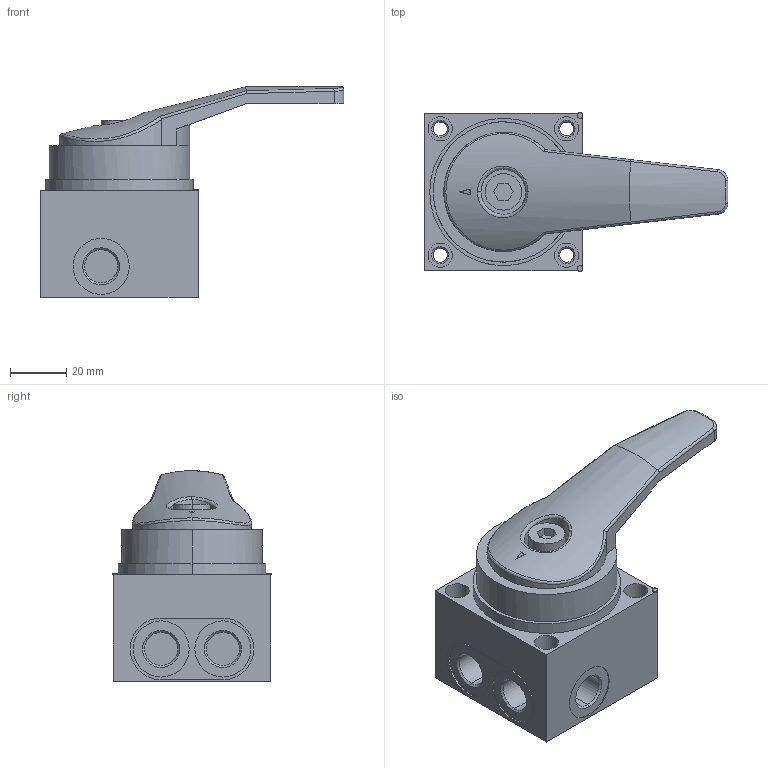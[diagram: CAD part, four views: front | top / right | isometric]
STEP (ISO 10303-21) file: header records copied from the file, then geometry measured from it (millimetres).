
FILE_DESCRIPTION((''),'2;1');
FILE_NAME('5631310100_ASM','2024-06-14T17:37:30',('GND7HC'),(''),'CREO PARAMETRIC BY PTC INC, 2023092','CREO PARAMETRIC BY PTC INC, 2023092','');
FILE_SCHEMA(('CONFIG_CONTROL_DESIGN','SHAPE_APPEARANCE_LAYERS_GROUPS'));
Length unit declared in the file: millimetre
Products named in the file (3): 5_2_VALVE_HOUSING; 5631317104; 5631310100_ASM
Assembly tree (2 placements, depth 2):
  5631310100_ASM
    5_2_VALVE_HOUSING
    5631317104
Bounding box: 108.3 x 56.59 x 74.98 mm (x, y, z)
Volume: 156836.2 mm3; surface area: 36000 mm2
Topology: 2 solids, 2 shells, 154 faces, 346 edges, 220 vertices
Faces by surface type: cylinder 63, plane 54, cone 26, bspline 10, torus 1
Entity records: 8059 total; most frequent: CARTESIAN_POINT 2654, DIRECTION 776, ORIENTED_EDGE 692, PRESENTATION_STYLE_ASSIGNMENT 411, STYLED_ITEM 351, CURVE_STYLE 346, EDGE_CURVE 346, AXIS2_PLACEMENT_3D 313
